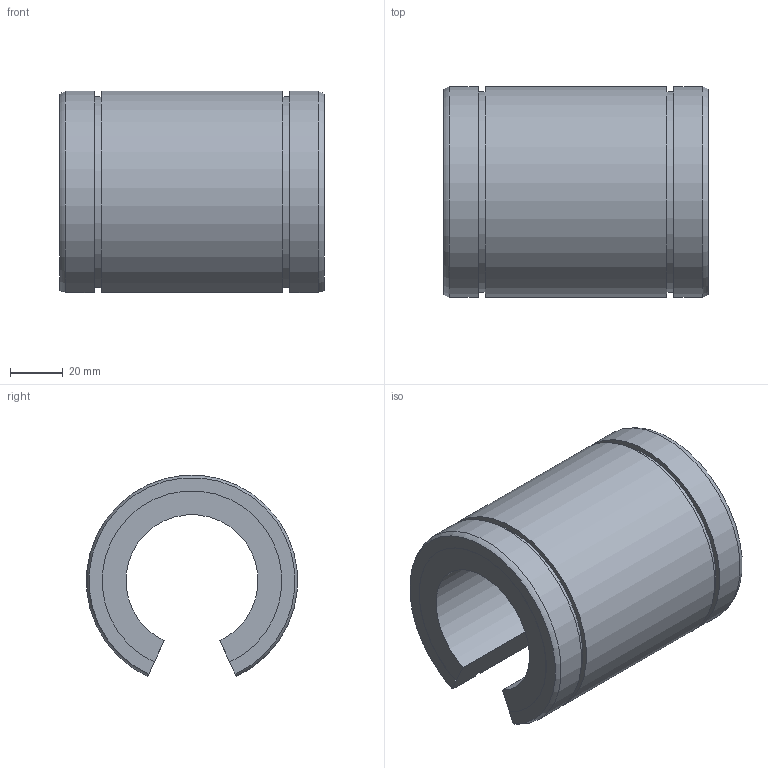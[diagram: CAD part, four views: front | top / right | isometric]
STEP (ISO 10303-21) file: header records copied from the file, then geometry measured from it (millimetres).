
FILE_DESCRIPTION((''),'2;1');
FILE_NAME('D:\製品 (図面)\カタログ用3D\リニアベアリング関連\STEP形式\L-OP\L50-OP.stp','2010-06-04T09:37:27',('Tsuchiya'),(''),'Autodesk Inventor 10','Autodesk Inventor 10','');
FILE_SCHEMA(('AUTOMOTIVE_DESIGN { 1 0 10303 214 1 1 1 1 }'));
Length unit declared in the file: millimetre
Products named in the file (1): L50-OP
Bounding box: 100 x 79.7 x 76.13 mm (x, y, z)
Volume: 261124 mm3; surface area: 44759.9 mm2
Topology: 1 solids, 1 shells, 20 faces, 54 edges, 36 vertices
Faces by surface type: plane 10, cylinder 8, torus 2
Entity records: 693 total; most frequent: CARTESIAN_POINT 153, DIRECTION 110, ORIENTED_EDGE 108, EDGE_CURVE 54, AXIS2_PLACEMENT_3D 39, VERTEX_POINT 36, VECTOR 32, LINE 32
